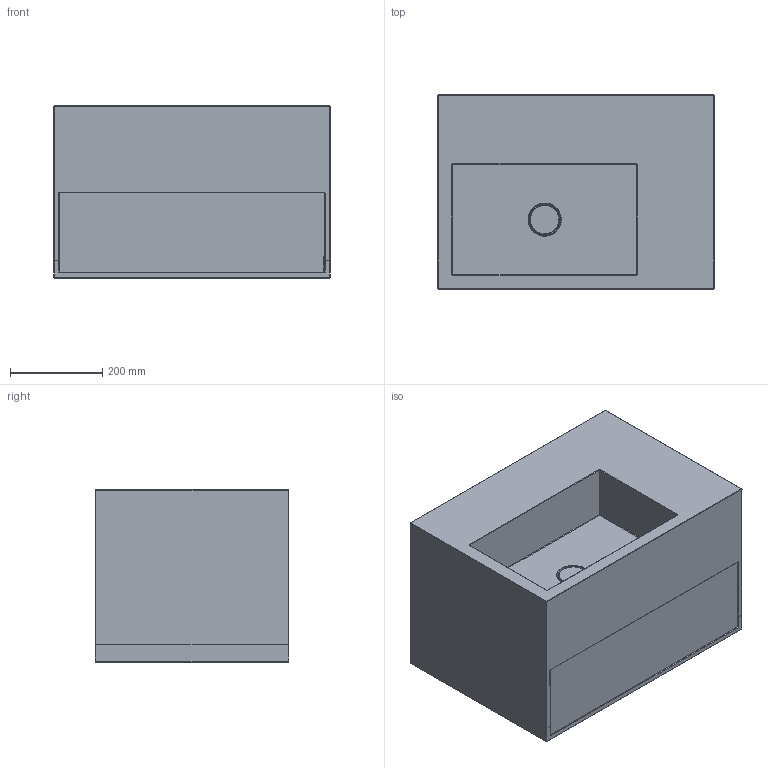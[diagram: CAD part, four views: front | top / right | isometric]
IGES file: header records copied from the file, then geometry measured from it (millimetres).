
Global section: file name: \\Archi-NAS\Comune\X GIOVANNI\SCHEDE PRODOTTO\LAVABI\SOSPESI\CUBANITO\3D\MOMA DESIGN_LAVABI SOSPESI_CUBANITO 5.igs; native system: Rhinoceros ( Jan 17 2018 ); preprocessor: Trout Lake IGES 012 Jan 17 2018; date: 230629.152020; units: millimetre
Bounding box: 600 x 420 x 373 mm (x, y, z)
Surface area: 3005363.7 mm2 (no closed solid volume)
Topology: 0 solids, 0 shells, 118 faces, 709 edges, 690 vertices
Faces by surface type: bspline 118
